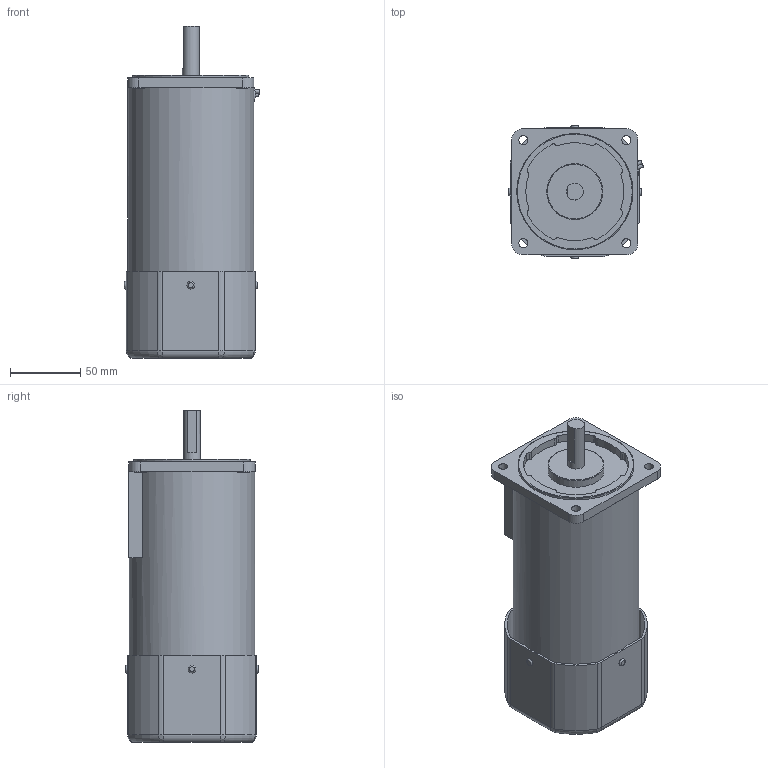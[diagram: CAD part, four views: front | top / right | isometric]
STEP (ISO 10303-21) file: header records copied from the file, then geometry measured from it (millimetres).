
FILE_DESCRIPTION((''),'2;1');
FILE_NAME('E:\2공장-도면\3D\표준형 3D(민규)\step file\K9RS180Fㅁ-B.stp','2014-11-11T10:48:21',('AHN'),(''),'Autodesk Inventor 2012','Autodesk Inventor 2012','');
FILE_SCHEMA(('CONFIG_CONTROL_DESIGN'));
Length unit declared in the file: millimetre
Products named in the file (1): K9ㅁS180Fㅁ-Bㄱ
Bounding box: 96.71 x 95 x 237 mm (x, y, z)
Volume: 1228187.9 mm3; surface area: 117461 mm2
Topology: 1 solids, 1 shells, 235 faces, 592 edges, 364 vertices
Faces by surface type: cylinder 119, plane 70, torus 38, bspline 8
Full cylindrical faces by diameter (mm): 6.5 x4, 8 x4, 12 x1, 40 x1, 83 x1, 90 x1
Entity records: 7636 total; most frequent: CARTESIAN_POINT 1978, DIRECTION 1217, ORIENTED_EDGE 1130, EDGE_CURVE 565, AXIS2_PLACEMENT_3D 481, VERTEX_POINT 355, EDGE_LOOP 299, VECTOR 255
